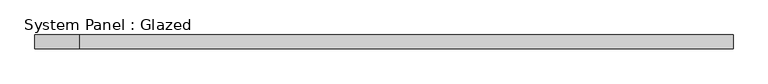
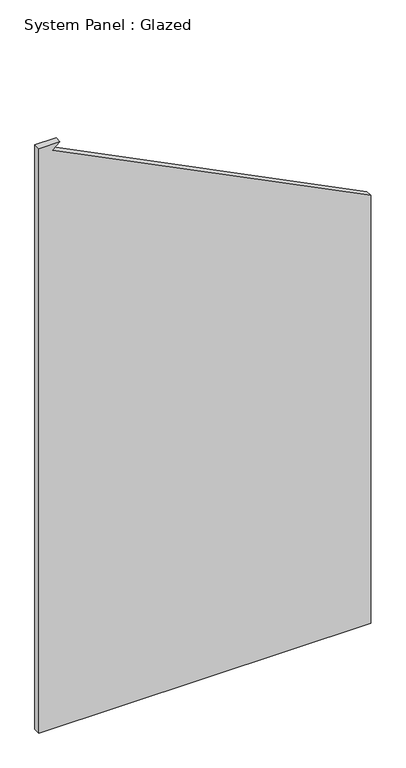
"""IFC4 building model written with IfcOpenShell, lengths in millimetres: plate geometry, System Panel : Glazed."""

from ifc_helpers import new_model, si_unit, frame, origin, place, context, project, spatial, polyline, outline, extrude, source, transform, mapped, element, save


def system_panel_glazed_93479f4e(model_context):
    return source(origin(), model_context, "Body", "SweptSolid", [
        extrude(outline(polyline([(0.0, -638.175), (0.0, 638.175), (1738.0942831, 638.175), (2349.8538734, -585.3441806), (2374.9, -556.9461173), (2374.9, -638.175), (0.0, -638.175)])), frame((0.0, 19.05, 0.0), z_axis=(0.0, 1.0, 0.0), x_axis=(0.0, 0.0, 1.0)), (0.0, 0.0, 1.0), 25.4),
    ])


if __name__ == "__main__":
    model = new_model("IFC4")
    model_context = context("Model", 3, world=origin())
    ifc_project = project(units=[si_unit("LENGTHUNIT", "METRE", prefix="MILLI")], contexts=[model_context])
    site = spatial("IfcSite", under=ifc_project)
    building = spatial("IfcBuilding", under=site)
    placement = place(None, origin())
    system_panel_glazed_shape = system_panel_glazed_93479f4e(model_context)
    element("IfcPlate", 1, ObjectType="System Panel : Glazed", at=placement, inside=building, context=model_context, shape_type="MappedRepresentation", body=[
        mapped(system_panel_glazed_shape, transform((0.0, 0.0, 0.0), x_axis=(1.0, 0.0, 0.0), y_axis=(0.0, 1.0, 0.0), z_axis=(0.0, 0.0, 1.0))),
    ])
    save(model, "model.ifc")
